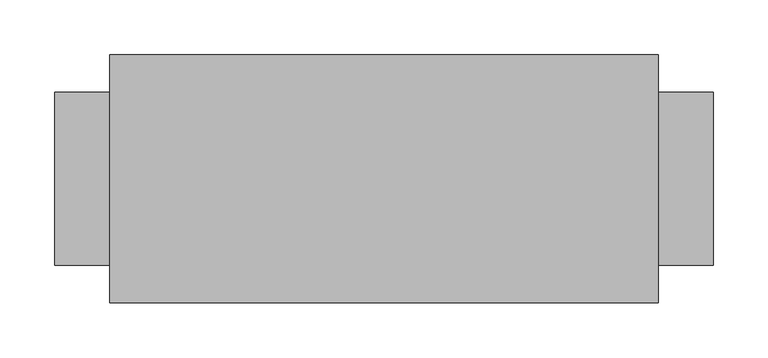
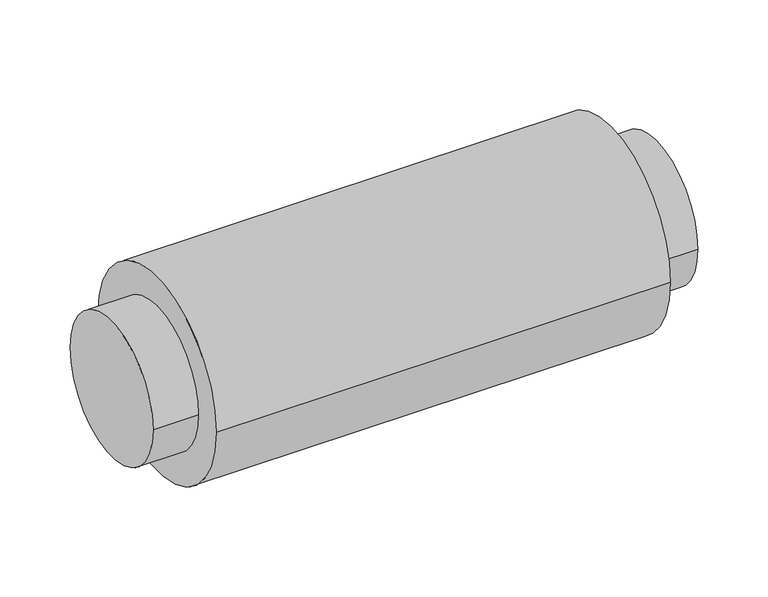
"""IFC4 building model written with IfcOpenShell, lengths in millimetres: damper geometry, VE-Tłumik_Akustyczny-ParaForma-Harmann-FLEXITEC : 160-0500."""

from ifc_helpers import new_model, si_unit, point, frame, origin, origin_2d, place, context, project, spatial, circle_curve, trimmed, segment, composite_curve, outline, extrude, source, transform, mapped, element, save


def damper_8c45fced(model_context):
    return source(origin(), model_context, "Body", "SweptSolid", [
        extrude(outline(composite_curve([segment(trimmed(circle_curve(origin_2d(), 79.0), [point((-79.0, 0.0))], [point((79.0, 0.0))], False, "CARTESIAN"), True, "CONTINUOUS"), segment(trimmed(circle_curve(origin_2d(), 79.0), [point((79.0, 0.0))], [point((-79.0, 0.0))], False, "CARTESIAN"), True, "CONTINUOUS")], self_intersect=False)), frame((250.0, 0.0, 0.0), z_axis=(1.0, 0.0, 0.0), x_axis=(0.0, 1.0, 0.0)), (0.0, 0.0, 1.0), 50.0),
        extrude(outline(composite_curve([segment(trimmed(circle_curve(origin_2d(), 79.0), [point((-79.0, 0.0))], [point((79.0, 0.0))], False, "CARTESIAN"), True, "CONTINUOUS"), segment(trimmed(circle_curve(origin_2d(), 79.0), [point((79.0, 0.0))], [point((-79.0, 0.0))], False, "CARTESIAN"), True, "CONTINUOUS")], self_intersect=False)), frame((-300.0, 0.0, 0.0), z_axis=(1.0, 0.0, 0.0), x_axis=(0.0, 1.0, 0.0)), (0.0, 0.0, 1.0), 50.0),
        extrude(outline(composite_curve([segment(trimmed(circle_curve(origin_2d(), 112.95), [point((-112.95, 0.0))], [point((112.95, 0.0))], False, "CARTESIAN"), True, "CONTINUOUS"), segment(trimmed(circle_curve(origin_2d(), 112.95), [point((112.95, 0.0))], [point((-112.95, 0.0))], False, "CARTESIAN"), True, "CONTINUOUS")], self_intersect=False)), frame((-250.0, 0.0, 0.0), z_axis=(1.0, 0.0, 0.0), x_axis=(0.0, 1.0, 0.0)), (0.0, 0.0, 1.0), 500.0),
    ])


if __name__ == "__main__":
    model = new_model("IFC4")
    model_context = context("Model", 3, world=origin())
    ifc_project = project(units=[si_unit("LENGTHUNIT", "METRE", prefix="MILLI")], contexts=[model_context])
    site = spatial("IfcSite", under=ifc_project)
    building = spatial("IfcBuilding", under=site)
    placement = place(None, origin())
    damper_shape = damper_8c45fced(model_context)
    element("IfcDamper", 1, ObjectType="VE-Tłumik_Akustyczny-ParaForma-Harmann-FLEXITEC : 160-0500", at=placement, inside=building, context=model_context, shape_type="MappedRepresentation", body=[
        mapped(damper_shape, transform((0.0, 0.0, 0.0), x_axis=(1.0, 0.0, 0.0), y_axis=(0.0, 1.0, 0.0), z_axis=(0.0, 0.0, 1.0))),
    ])
    save(model, "model.ifc")
